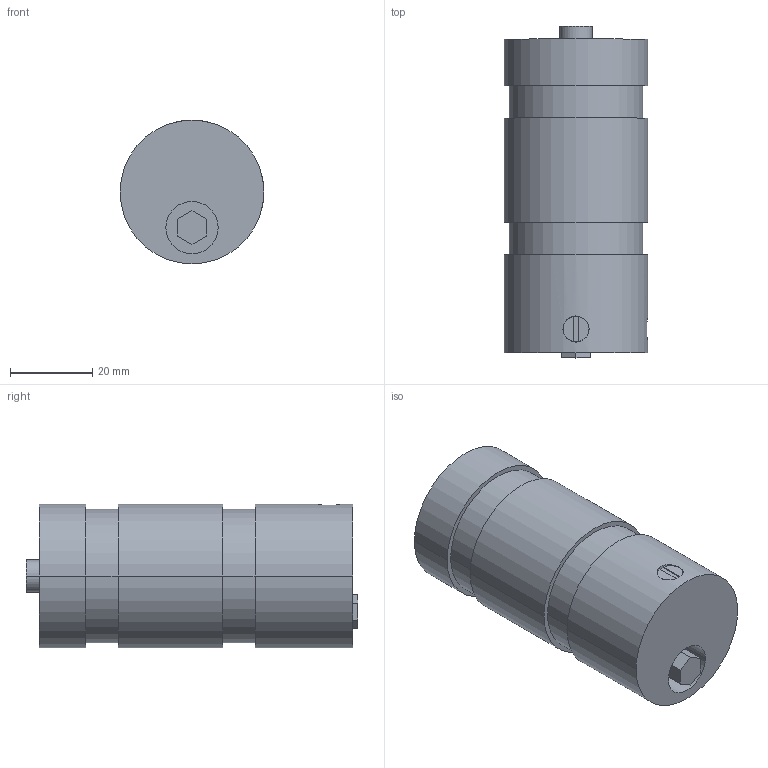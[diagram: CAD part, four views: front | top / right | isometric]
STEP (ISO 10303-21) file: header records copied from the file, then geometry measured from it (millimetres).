
FILE_DESCRIPTION (( 'STEP AP214' ), '1' );
FILE_NAME ('SS1362-8KLB.STEP', '2024-08-20T12:59:31', ( '' ), ( '' ), 'SwSTEP 2.0', 'SolidWorks 2008', '' );
FILE_SCHEMA (( 'AUTOMOTIVE_DESIGN' ));
Length unit declared in the file: inch
Products named in the file (1): SS1362-8KLB
Bounding box: 34.92 x 80.64 x 34.92 mm (x, y, z)
Volume: 70404.4 mm3; surface area: 11455.9 mm2
Topology: 1 solids, 1 shells, 49 faces, 111 edges, 74 vertices
Faces by surface type: plane 27, cylinder 22
Entity records: 1538 total; most frequent: CARTESIAN_POINT 365, DIRECTION 253, ORIENTED_EDGE 222, EDGE_CURVE 111, AXIS2_PLACEMENT_3D 98, VERTEX_POINT 74, EDGE_LOOP 59, VECTOR 57
